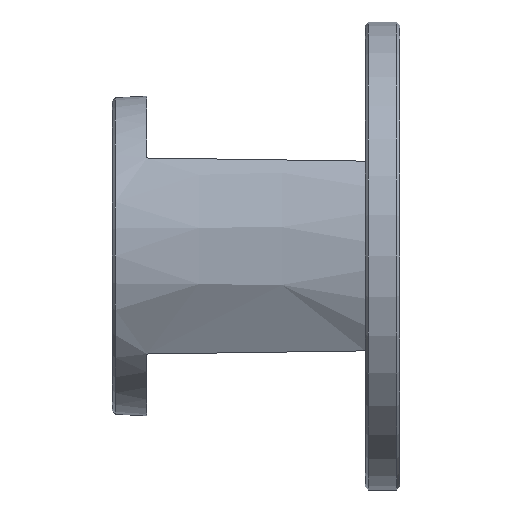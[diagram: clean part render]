
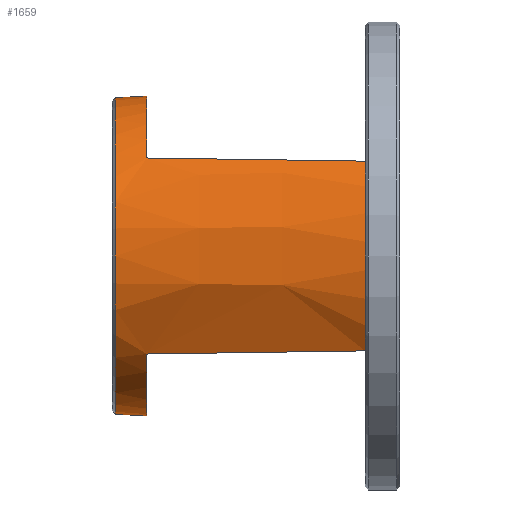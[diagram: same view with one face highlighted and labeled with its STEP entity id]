
A CAD part, left-side view. The second image highlights one B-rep face of the part: STEP entity #1659.
In plain terms, the highlighted conical face has half-angle 2.862 degrees and reference radius 27 mm.
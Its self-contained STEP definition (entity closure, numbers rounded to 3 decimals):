
#60 = CARTESIAN_POINT ( 'NONE',  ( 0., 40., -25.275 ) ) ;
#78 = ORIENTED_EDGE ( 'NONE', *, *, #1778, .T. ) ;
#130 = DIRECTION ( 'NONE',  ( 0., 0., -1. ) ) ;
#131 = CARTESIAN_POINT ( 'NONE',  ( -19.964, 40., 15.5 ) ) ;
#138 = DIRECTION ( 'NONE',  ( 0., 0., 1. ) ) ;
#155 = CARTESIAN_POINT ( 'NONE',  ( -22.45, 5.5, 15. ) ) ;
#237 = ORIENTED_EDGE ( 'NONE', *, *, #280, .T. ) ;
#248 = CARTESIAN_POINT ( 'NONE',  ( 0., 5.5, 27. ) ) ;
#280 = EDGE_CURVE ( 'NONE', #1746, #697, #938, .T. ) ;
#282 = EDGE_CURVE ( 'NONE', #697, #617, #716, .T. ) ;
#288 = DIRECTION ( 'NONE',  ( 0., -1., 0. ) ) ;
#289 = AXIS2_PLACEMENT_3D ( 'NONE', #1110, #288, #130 ) ;
#322 = CIRCLE ( 'NONE', #660, 25.026 ) ;
#390 = CIRCLE ( 'NONE', #802, 25.275 ) ;
#408 = CARTESIAN_POINT ( 'NONE',  ( 0., 5.5, 0. ) ) ;
#479 = DIRECTION ( 'NONE',  ( 0., -0.999, -0.05 ) ) ;
#563 = AXIS2_PLACEMENT_3D ( 'NONE', #955, #2094, #1433 ) ;
#566 = VECTOR ( 'NONE', #479, 1000. ) ;
#617 = VERTEX_POINT ( 'NONE', #910 ) ;
#634 = CONICAL_SURFACE ( 'NONE', #1808, 27., 0.05 ) ;
#642 = B_SPLINE_CURVE_WITH_KNOTS ( 'NONE', 3,
 ( #950, #1759, #1590, #155 ),
 .UNSPECIFIED., .F., .F.,
 ( 4, 4 ),
 ( 0., 0.035 ),
 .UNSPECIFIED. ) ;
#647 = ORIENTED_EDGE ( 'NONE', *, *, #1925, .T. ) ;
#660 = AXIS2_PLACEMENT_3D ( 'NONE', #742, #1078, #1725 ) ;
#697 = VERTEX_POINT ( 'NONE', #1726 ) ;
#716 = B_SPLINE_CURVE_WITH_KNOTS ( 'NONE', 3,
 ( #1743, #1915, #1570, #1092 ),
 .UNSPECIFIED., .F., .F.,
 ( 4, 4 ),
 ( 0., 0.035 ),
 .UNSPECIFIED. ) ;
#742 = CARTESIAN_POINT ( 'NONE',  ( 0., 44.974, 0. ) ) ;
#756 = VERTEX_POINT ( 'NONE', #1991 ) ;
#778 = VERTEX_POINT ( 'NONE', #1658 ) ;
#802 = AXIS2_PLACEMENT_3D ( 'NONE', #1760, #2049, #138 ) ;
#856 = CIRCLE ( 'NONE', #289, 27. ) ;
#857 = EDGE_CURVE ( 'NONE', #756, #778, #891, .T. ) ;
#891 = LINE ( 'NONE', #248, #1391 ) ;
#910 = CARTESIAN_POINT ( 'NONE',  ( -22.45, 5.5, -15. ) ) ;
#938 = CIRCLE ( 'NONE', #563, 25.275 ) ;
#950 = CARTESIAN_POINT ( 'NONE',  ( -19.964, 40., 15.5 ) ) ;
#955 = CARTESIAN_POINT ( 'NONE',  ( 0., 40., 0. ) ) ;
#992 = EDGE_CURVE ( 'NONE', #1901, #1656, #642, .T. ) ;
#1067 = EDGE_CURVE ( 'NONE', #1656, #617, #856, .T. ) ;
#1078 = DIRECTION ( 'NONE',  ( 0., -1., 0. ) ) ;
#1092 = CARTESIAN_POINT ( 'NONE',  ( -22.45, 5.5, -15. ) ) ;
#1110 = CARTESIAN_POINT ( 'NONE',  ( 0., 5.5, 0. ) ) ;
#1212 = VERTEX_POINT ( 'NONE', #1817 ) ;
#1220 = DIRECTION ( 'NONE',  ( 0., 0., -1. ) ) ;
#1387 = ORIENTED_EDGE ( 'NONE', *, *, #1899, .F. ) ;
#1391 = VECTOR ( 'NONE', #1880, 1000. ) ;
#1433 = DIRECTION ( 'NONE',  ( 0., 0., -1. ) ) ;
#1440 = ORIENTED_EDGE ( 'NONE', *, *, #857, .F. ) ;
#1486 = CARTESIAN_POINT ( 'NONE',  ( -22.45, 5.5, 15. ) ) ;
#1517 = ORIENTED_EDGE ( 'NONE', *, *, #992, .F. ) ;
#1570 = CARTESIAN_POINT ( 'NONE',  ( -21.647, 17.002, -15.167 ) ) ;
#1590 = CARTESIAN_POINT ( 'NONE',  ( -21.647, 17.002, 15.167 ) ) ;
#1656 = VERTEX_POINT ( 'NONE', #1486 ) ;
#1658 = CARTESIAN_POINT ( 'NONE',  ( 0., 40., 25.275 ) ) ;
#1659 = ADVANCED_FACE ( 'NONE', ( #1863 ), #634, .T. ) ;
#1703 = DIRECTION ( 'NONE',  ( 0., -1., 0. ) ) ;
#1725 = DIRECTION ( 'NONE',  ( 0., 0., 1. ) ) ;
#1726 = CARTESIAN_POINT ( 'NONE',  ( -19.964, 40., -15.5 ) ) ;
#1743 = CARTESIAN_POINT ( 'NONE',  ( -19.964, 40., -15.5 ) ) ;
#1746 = VERTEX_POINT ( 'NONE', #60 ) ;
#1759 = CARTESIAN_POINT ( 'NONE',  ( -20.822, 28.502, 15.333 ) ) ;
#1760 = CARTESIAN_POINT ( 'NONE',  ( 0., 40., 0. ) ) ;
#1778 = EDGE_CURVE ( 'NONE', #756, #1212, #322, .T. ) ;
#1797 = ORIENTED_EDGE ( 'NONE', *, *, #1067, .F. ) ;
#1808 = AXIS2_PLACEMENT_3D ( 'NONE', #408, #1703, #1220 ) ;
#1817 = CARTESIAN_POINT ( 'NONE',  ( 0., 44.974, -25.026 ) ) ;
#1818 = ORIENTED_EDGE ( 'NONE', *, *, #282, .T. ) ;
#1863 = FACE_OUTER_BOUND ( 'NONE', #1870, .T. ) ;
#1870 = EDGE_LOOP ( 'NONE', ( #1440, #78, #647, #237, #1818, #1797, #1517, #1387 ) ) ;
#1880 = DIRECTION ( 'NONE',  ( 0., -0.999, 0.05 ) ) ;
#1899 = EDGE_CURVE ( 'NONE', #778, #1901, #390, .T. ) ;
#1901 = VERTEX_POINT ( 'NONE', #131 ) ;
#1915 = CARTESIAN_POINT ( 'NONE',  ( -20.822, 28.502, -15.333 ) ) ;
#1925 = EDGE_CURVE ( 'NONE', #1212, #1746, #1934, .T. ) ;
#1926 = CARTESIAN_POINT ( 'NONE',  ( 0., 5.5, -27. ) ) ;
#1934 = LINE ( 'NONE', #1926, #566 ) ;
#1991 = CARTESIAN_POINT ( 'NONE',  ( 0., 44.974, 25.026 ) ) ;
#2049 = DIRECTION ( 'NONE',  ( 0., -1., 0. ) ) ;
#2094 = DIRECTION ( 'NONE',  ( 0., 1., 0. ) ) ;
